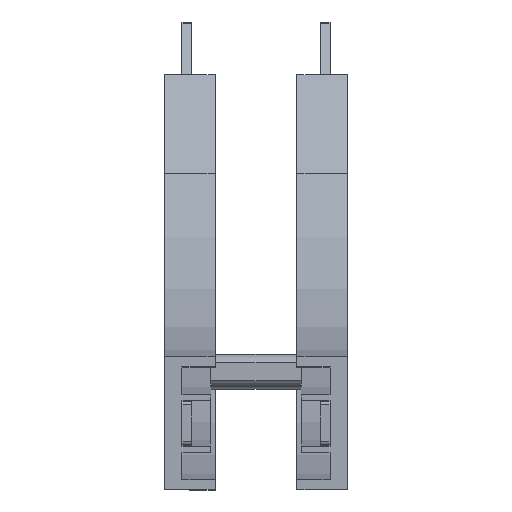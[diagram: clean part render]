
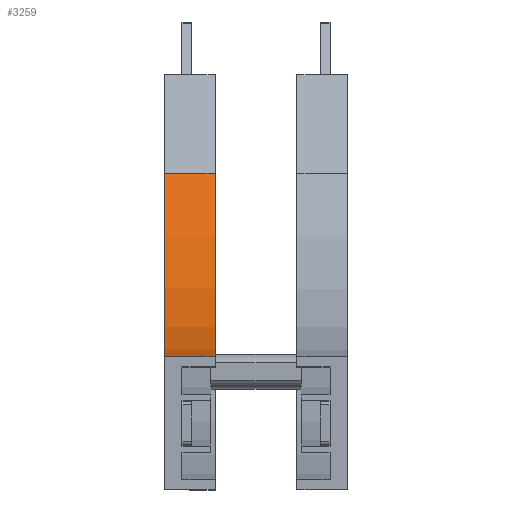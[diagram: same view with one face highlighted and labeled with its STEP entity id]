
A CAD part, top view. The second image highlights one B-rep face of the part: STEP entity #3259.
In plain terms, the highlighted cylindrical face has radius 361.85 mm (diameter 723.7 mm), a partial arc.
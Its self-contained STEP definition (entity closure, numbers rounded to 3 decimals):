
#1719 = EDGE_CURVE ( 'NONE', #1731, #1720, #6275, .T. ) ;
#1720 = VERTEX_POINT ( 'NONE', #6457 ) ;
#1731 = VERTEX_POINT ( 'NONE', #6440 ) ;
#3259 = ADVANCED_FACE ( 'NONE', ( #6968 ), #6967, .F. ) ;
#3260 = EDGE_LOOP ( 'NONE', ( #3261, #3264, #3266, #3267 ) ) ;
#3261 = ORIENTED_EDGE ( 'NONE', *, *, #3262, .F. ) ;
#3262 = EDGE_CURVE ( 'NONE', #3263, #1731, #6962, .T. ) ;
#3263 = VERTEX_POINT ( 'NONE', #6958 ) ;
#3264 = ORIENTED_EDGE ( 'NONE', *, *, #3265, .T. ) ;
#3265 = EDGE_CURVE ( 'NONE', #3263, #3343, #6957, .T. ) ;
#3266 = ORIENTED_EDGE ( 'NONE', *, *, #3345, .T. ) ;
#3267 = ORIENTED_EDGE ( 'NONE', *, *, #1719, .F. ) ;
#3343 = VERTEX_POINT ( 'NONE', #6852 ) ;
#3345 = EDGE_CURVE ( 'NONE', #3343, #1720, #6850, .T. ) ;
#6275 = CIRCLE ( 'NONE', #6461, 361.85 ) ;
#6440 = CARTESIAN_POINT ( 'NONE',  ( 0., 76.3, -80. ) ) ;
#6457 = CARTESIAN_POINT ( 'NONE',  ( 0., 182.283, -335.867 ) ) ;
#6458 = DIRECTION ( 'NONE',  ( 0., 0., -1. ) ) ;
#6459 = DIRECTION ( 'NONE',  ( 1., 0., 0. ) ) ;
#6460 = CARTESIAN_POINT ( 'NONE',  ( 0., 438.15, -80. ) ) ;
#6461 = AXIS2_PLACEMENT_3D ( 'NONE', #6460, #6459, #6458 ) ;
#6847 = DIRECTION ( 'NONE',  ( -1., 0., 0. ) ) ;
#6848 = VECTOR ( 'NONE', #6847, 1000. ) ;
#6849 = CARTESIAN_POINT ( 'NONE',  ( 0., 182.283, -335.867 ) ) ;
#6850 = LINE ( 'NONE', #6849, #6848 ) ;
#6852 = CARTESIAN_POINT ( 'NONE',  ( 29., 182.283, -335.867 ) ) ;
#6953 = DIRECTION ( 'NONE',  ( 0., 0., -1. ) ) ;
#6954 = DIRECTION ( 'NONE',  ( 1., 0., 0. ) ) ;
#6955 = CARTESIAN_POINT ( 'NONE',  ( 29., 438.15, -80. ) ) ;
#6956 = AXIS2_PLACEMENT_3D ( 'NONE', #6955, #6954, #6953 ) ;
#6957 = CIRCLE ( 'NONE', #6956, 361.85 ) ;
#6958 = CARTESIAN_POINT ( 'NONE',  ( 29., 76.3, -80. ) ) ;
#6959 = DIRECTION ( 'NONE',  ( -1., 0., 0. ) ) ;
#6960 = VECTOR ( 'NONE', #6959, 1000. ) ;
#6961 = CARTESIAN_POINT ( 'NONE',  ( 0., 76.3, -80. ) ) ;
#6962 = LINE ( 'NONE', #6961, #6960 ) ;
#6963 = DIRECTION ( 'NONE',  ( 0., 0., -1. ) ) ;
#6964 = DIRECTION ( 'NONE',  ( 1., 0., 0. ) ) ;
#6965 = CARTESIAN_POINT ( 'NONE',  ( 0., 438.15, -80. ) ) ;
#6966 = AXIS2_PLACEMENT_3D ( 'NONE', #6965, #6964, #6963 ) ;
#6967 = CYLINDRICAL_SURFACE ( 'NONE', #6966, 361.85 ) ;
#6968 = FACE_OUTER_BOUND ( 'NONE', #3260, .T. ) ;
